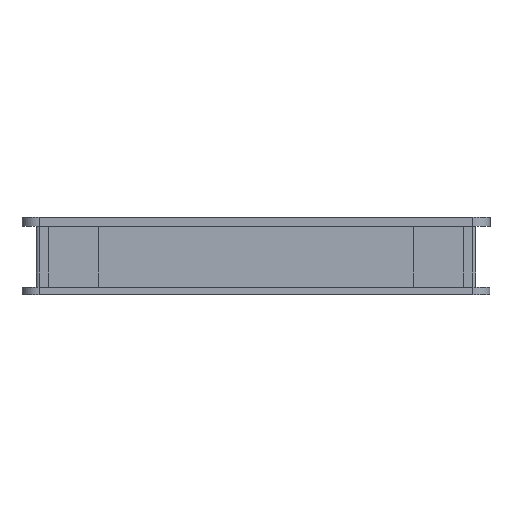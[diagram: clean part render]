
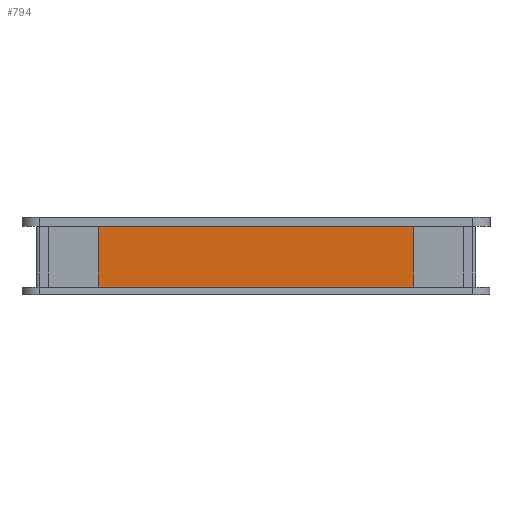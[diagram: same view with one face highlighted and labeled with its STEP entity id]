
A CAD part, left-side view. The second image highlights one B-rep face of the part: STEP entity #794.
In plain terms, the highlighted planar face has unit normal (-1, 0, 0).
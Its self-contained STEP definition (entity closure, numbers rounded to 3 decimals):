
#305 = LINE ( 'NONE', #15748, #7775 ) ;
#417 = LINE ( 'NONE', #15656, #15543 ) ;
#715 = VERTEX_POINT ( 'NONE', #3746 ) ;
#794 = ADVANCED_FACE ( 'NONE', ( #10282 ), #6522, .F. ) ;
#1060 = AXIS2_PLACEMENT_3D ( 'NONE', #15127, #12777, #13933 ) ;
#1262 = LINE ( 'NONE', #3524, #7553 ) ;
#1507 = EDGE_LOOP ( 'NONE', ( #14619, #15209, #12803, #11874 ) ) ;
#1858 = VERTEX_POINT ( 'NONE', #3122 ) ;
#3122 = CARTESIAN_POINT ( 'NONE',  ( -350.983, -98.14, -92.045 ) ) ;
#3524 = CARTESIAN_POINT ( 'NONE',  ( -350.983, -98.14, -92.045 ) ) ;
#3550 = DIRECTION ( 'NONE',  ( 0., -1., 0. ) ) ;
#3746 = CARTESIAN_POINT ( 'NONE',  ( -350.983, 167.86, -92.045 ) ) ;
#4237 = LINE ( 'NONE', #8211, #5824 ) ;
#5824 = VECTOR ( 'NONE', #15725, 1000. ) ;
#6522 = PLANE ( 'NONE',  #1060 ) ;
#6820 = DIRECTION ( 'NONE',  ( 0., 0., -1. ) ) ;
#7553 = VECTOR ( 'NONE', #14747, 1000. ) ;
#7775 = VECTOR ( 'NONE', #6820, 1000. ) ;
#8211 = CARTESIAN_POINT ( 'NONE',  ( -350.983, -98.14, -92.045 ) ) ;
#8715 = VERTEX_POINT ( 'NONE', #12986 ) ;
#10282 = FACE_OUTER_BOUND ( 'NONE', #1507, .T. ) ;
#10684 = EDGE_CURVE ( 'NONE', #715, #12897, #305, .T. ) ;
#11374 = EDGE_CURVE ( 'NONE', #1858, #715, #1262, .T. ) ;
#11874 = ORIENTED_EDGE ( 'NONE', *, *, #11374, .T. ) ;
#12777 = DIRECTION ( 'NONE',  ( 1., 0., 0. ) ) ;
#12803 = ORIENTED_EDGE ( 'NONE', *, *, #12943, .T. ) ;
#12897 = VERTEX_POINT ( 'NONE', #14202 ) ;
#12943 = EDGE_CURVE ( 'NONE', #8715, #1858, #4237, .T. ) ;
#12986 = CARTESIAN_POINT ( 'NONE',  ( -350.983, -98.14, -131.045 ) ) ;
#13933 = DIRECTION ( 'NONE',  ( 0., -1., 0. ) ) ;
#14202 = CARTESIAN_POINT ( 'NONE',  ( -350.983, 167.86, -131.045 ) ) ;
#14619 = ORIENTED_EDGE ( 'NONE', *, *, #10684, .T. ) ;
#14728 = EDGE_CURVE ( 'NONE', #12897, #8715, #417, .T. ) ;
#14747 = DIRECTION ( 'NONE',  ( 0., 1., 0. ) ) ;
#15127 = CARTESIAN_POINT ( 'NONE',  ( -350.983, 34.86, -111.545 ) ) ;
#15209 = ORIENTED_EDGE ( 'NONE', *, *, #14728, .T. ) ;
#15543 = VECTOR ( 'NONE', #3550, 1000. ) ;
#15656 = CARTESIAN_POINT ( 'NONE',  ( -350.983, -98.14, -131.045 ) ) ;
#15725 = DIRECTION ( 'NONE',  ( 0., 0., 1. ) ) ;
#15748 = CARTESIAN_POINT ( 'NONE',  ( -350.983, 167.86, -92.045 ) ) ;
